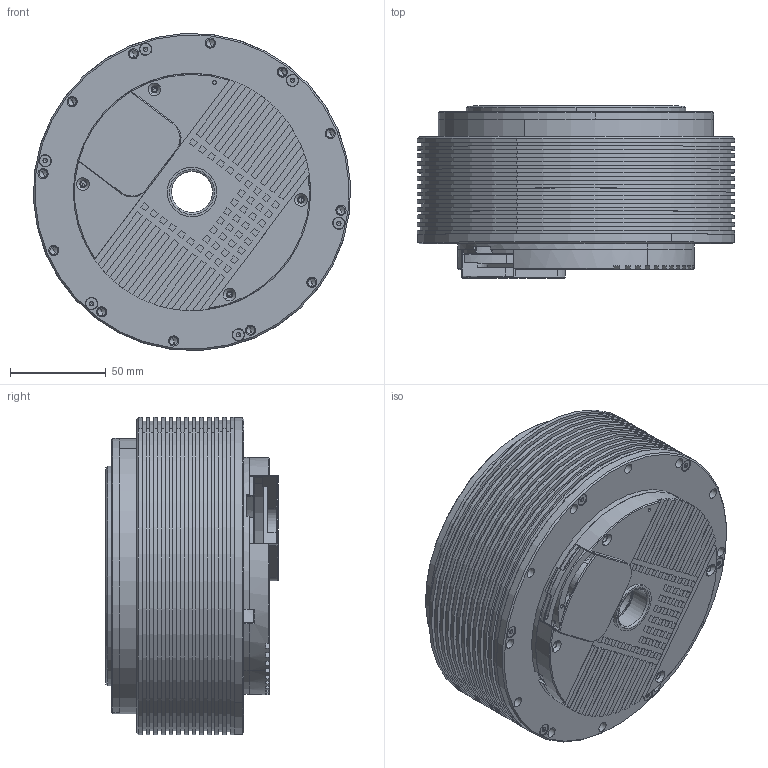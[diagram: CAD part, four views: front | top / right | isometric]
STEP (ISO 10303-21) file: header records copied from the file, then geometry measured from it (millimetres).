
FILE_DESCRIPTION (( 'STEP AP203' ), '1' );
FILE_NAME ('RMD-X15-P20-450.STEP', '2026-03-26T01:17:24', ( '' ), ( '' ), 'SwSTEP 2.0', 'SolidWorks 2020', '' );
FILE_SCHEMA (( 'CONFIG_CONTROL_DESIGN' ));
Length unit declared in the file: millimetre
Products named in the file (11): RMD-X15-P20-450; 8MT.013.033-V1_Default<偌樓馱>; M4X8; 8MT.013.043-傷裔 E; XMT.112.007_Default<偌樓馱>; 8MT.034.013-儂釱 D_Default<偌樓馱>; 8MT.013.043-V1_Default<偌樓馱>; XMT.105.024-V1_Default<偌樓馱>; M2.5X5; XMT.105.016-V1_Default<偌樓馱>; M3X10
Assembly tree (29 placements, depth 2):
  RMD-X15-P20-450
    8MT.034.013-儂釱 D_Default<偌樓馱>
    XMT.105.016-V1_Default<偌樓馱>
    8MT.013.043-V1_Default<偌樓馱>
    XMT.105.024-V1_Default<偌樓馱>
    8MT.013.033-V1_Default<偌樓馱>
    XMT.112.007_Default<偌樓馱>
    M2.5X5  x4
    M3X10  x6
    M4X8  x12
    8MT.013.043-傷裔 E
Bounding box: 165.9 x 90 x 165.9 mm (x, y, z)
Volume: 471955.6 mm3; surface area: 360874.4 mm2
Topology: 29 solids, 29 shells, 2576 faces, 6712 edges, 4126 vertices
Faces by surface type: cylinder 1159, plane 830, cone 533, bspline 44, torus 10
Entity records: 67699 total; most frequent: DIRECTION 12228, CARTESIAN_POINT 11668, ORIENTED_EDGE 11014, EDGE_CURVE 5507, AXIS2_PLACEMENT_3D 4705, VERTEX_POINT 3571, VECTOR 2818, LINE 2818
